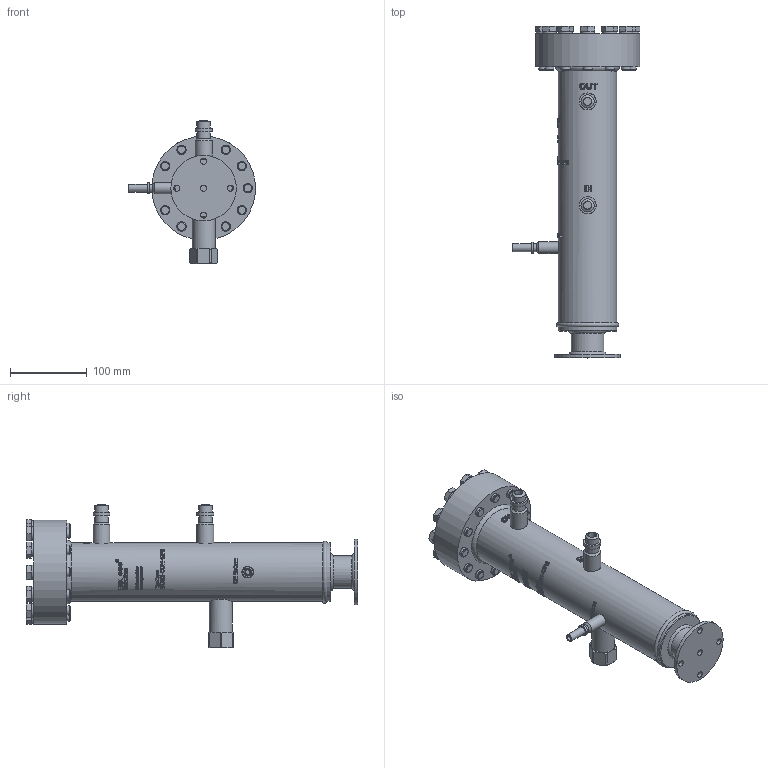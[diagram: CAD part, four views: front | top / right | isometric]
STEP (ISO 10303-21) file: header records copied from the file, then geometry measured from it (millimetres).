
FILE_DESCRIPTION(/* description */ (''),/* implementation_level */ '2;1');
FILE_NAME(/* name */ 'P:\OS\BOS3-CDH-1ZFE\BOS3-CDH-1ZFE_AG-Kunde.stp',/* time_stamp */ '2016-02-26T13:22:49+01:00',/* author */ ('neufeld'),/* organization */ (''),/* preprocessor_version */ 'ST-DEVELOPER v16.1',/* originating_system */ 'Autodesk Inventor 2016',/* authorisation */ '');
FILE_SCHEMA (('AUTOMOTIVE_DESIGN { 1 0 10303 214 3 1 1 }'));
Products named in the file (1): BOS3-CDH-1ZFE_AG-Kunde
Bounding box: 165.94 x 431.15 x 186.1 mm (x, y, z)
Volume: 2371594.3 mm3; surface area: 171253.7 mm2
Topology: 1 solids, 1 shells, 1541 faces, 3994 edges, 2606 vertices
Faces by surface type: bspline 650, plane 617, cylinder 165, cone 105, torus 4
Full cylindrical faces by diameter (mm): 6.2 x1, 8 x5, 10 x2, 10.2 x2, 12 x12, 14 x1, 15 x1, 17.2 x4, 17.305 x1, 18 x12, 22 x4, 30 x1, 42.4 x1, 76 x1, 76.1 x1, 85 x1, 135 x1
Entity records: 60480 total; most frequent: CARTESIAN_POINT 27444, ORIENTED_EDGE 7778, DIRECTION 4839, EDGE_CURVE 3889, VERTEX_POINT 2578, EDGE_LOOP 1777, LINE 1755, VECTOR 1755
